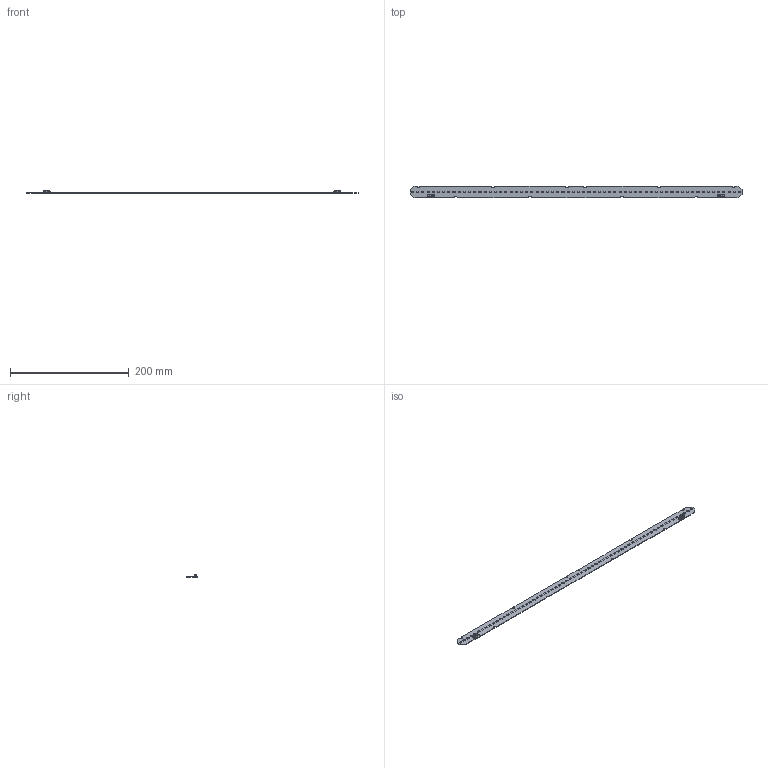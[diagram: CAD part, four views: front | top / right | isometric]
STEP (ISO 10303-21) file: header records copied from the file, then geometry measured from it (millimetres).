
FILE_DESCRIPTION(/* description */ ('Unknown'),/* implementation_level */ '2;1');
FILE_NAME(/* name */ 'LinLED 1100lm per 1ft 2C 32LED per 1ft 560x20',/* time_stamp */ '2023-05-11T16:21:21+02:00',/* author */ ('Unknown'),/* organization */ ('Unknown'),/* preprocessor_version */ 'ST-DEVELOPER v18.102',/* originating_system */ 'Solid Edge',/* authorisation */ 'Unknown');
FILE_SCHEMA (('AUTOMOTIVE_DESIGN {1 0 10303 214 3 1 1}'));
Products named in the file (1): LinLED 1100lm per 1ft 2C 32LED per 1ft 560x20
Bounding box: 559.6 x 20 x 4.45 mm (x, y, z)
Volume: 11612.7 mm3; surface area: 24128.2 mm2
Topology: 1 solids, 1 shells, 1590 faces, 4174 edges, 2714 vertices
Faces by surface type: plane 1270, cylinder 164, torus 64, cone 50, bspline 26, sphere 16
Entity records: 60318 total; most frequent: CARTESIAN_POINT 10705, ORIENTED_EDGE 8300, DIRECTION 7172, EDGE_CURVE 4150, LINE 3474, VECTOR 3474, VERTEX_POINT 2708, AXIS2_PLACEMENT_3D 1849
